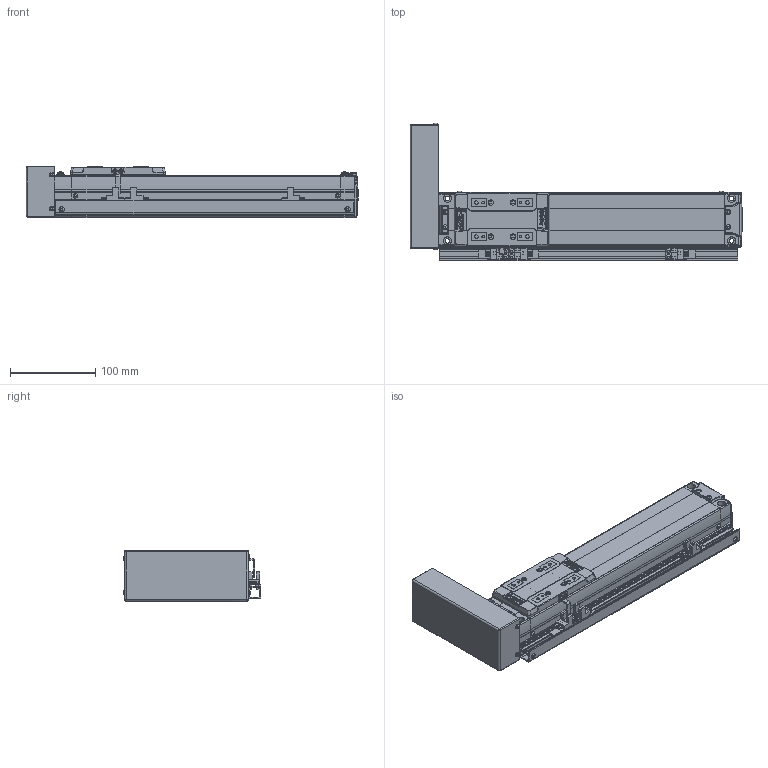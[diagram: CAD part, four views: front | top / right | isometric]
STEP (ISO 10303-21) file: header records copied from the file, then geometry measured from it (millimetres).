
FILE_DESCRIPTION(('STEP AP214'),'1');
FILE_NAME('Z:/Web/3D/SAN65/STP/SAN65ㅁㅁ-200PL+3SR.stp','2012-06-14T04:21:28',(' '),(' '),'Spatial InterOp 3D',' ',' ');
FILE_SCHEMA(('automotive_design'));
Length unit declared in the file: metre
Products named in the file (57): SAN65__-200; BODY-SAN65; REAR-SAN65; RRCV-SAN65; 스크루 : Round - M3.0 x 6.0; FRONT-SAN65; SHAFT-SAN65; RN8 x 0.75; SSFX-SAN65; SLIDE-SAN65; SLCV-SAN65; 스크루 : Countersunk - M3.0 x 6.0; ____203; PL; BTCV-SAN65; BHCS M3 X 6L; 3SR; SRL-16x17-450L; - OT; EE-SX674; SBK-SX674-352; HOME; + OT; DOG; SDG-SAN65; 스크루 : Round - M3.0 x 5.0
Assembly tree (56 placements, depth 4):
  ____203
    SAN65__-200
      BODY-SAN65
      REAR-SAN65
        REAR-SAN65
        RRCV-SAN65
        스크루 : Round - M3.0 x 6.0
        스크루 : Round - M3.0 x 6.0
        스크루 : Round - M3.0 x 6.0
        스크루 : Round - M3.0 x 6.0
        스크루 : Round - M3.0 x 6.0
        스크루 : Round - M3.0 x 6.0
      FRONT-SAN65
        FRONT-SAN65
        SHAFT-SAN65
        RN8 x 0.75
        SSFX-SAN65
        스크루 : Round - M3.0 x 6.0
        스크루 : Round - M3.0 x 6.0
        스크루 : Round - M3.0 x 6.0
        스크루 : Round - M3.0 x 6.0
      SLIDE-SAN65
        SLIDE-SAN65
        SLCV-SAN65
        스크루 : Countersunk - M3.0 x 6.0
        스크루 : Countersunk - M3.0 x 6.0
        스크루 : Countersunk - M3.0 x 6.0
        스크루 : Countersunk - M3.0 x 6.0
    PL
      BTCV-SAN65
      BHCS M3 X 6L
      BHCS M3 X 6L
      BHCS M3 X 6L
      BHCS M3 X 6L
    3SR
      SRL-16x17-450L
      스크루 : Round - M3.0 x 6.0
      스크루 : Round - M3.0 x 6.0
      - OT
        EE-SX674
        SBK-SX674-352
        스크루 : Round - M3.0 x 6.0
        스크루 : Round - M3.0 x 6.0
      HOME
        EE-SX674
        SBK-SX674-352
        스크루 : Round - M3.0 x 6.0
        스크루 : Round - M3.0 x 6.0
      + OT
        EE-SX674
        SBK-SX674-352
        스크루 : Round - M3.0 x 6.0
        스크루 : Round - M3.0 x 6.0
      DOG
        SDG-SAN65
        스크루 : Round - M3.0 x 5.0
        스크루 : Round - M3.0 x 5.0
Bounding box: 390.15 x 162.06 x 61 mm (x, y, z)
Volume: 1475219.9 mm3; surface area: 241522.5 mm2
Topology: 46 solids, 46 shells, 1943 faces, 4964 edges, 3236 vertices
Faces by surface type: plane 1292, cylinder 478, cone 89, sphere 36, bspline 30, torus 15, extrusion 3
Full cylindrical faces by diameter (mm): 0.571 x2, 0.706 x1, 1.727 x2, 2.132 x1, 2.2 x4, 2.5 x15, 2.528 x4, 3 x6, 3.121 x2, 3.3 x4, 3.4 x8, 3.5 x14, 4.2 x20, 4.849 x4, 5 x3, 5.5 x4, 5.987 x2, 6 x6, 6.35 x1, 6.5 x2, 7 x1, 8 x4, 9.5 x4, 13 x1, 15 x1, 19 x1, 26 x1, 38.1 x1
Entity records: 78537 total; most frequent: CARTESIAN_POINT 14993, DIRECTION 9757, ORIENTED_EDGE 9300, EDGE_CURVE 4650, VECTOR 3293, LINE 3290, AXIS2_PLACEMENT_3D 3232, VERTEX_POINT 3176
